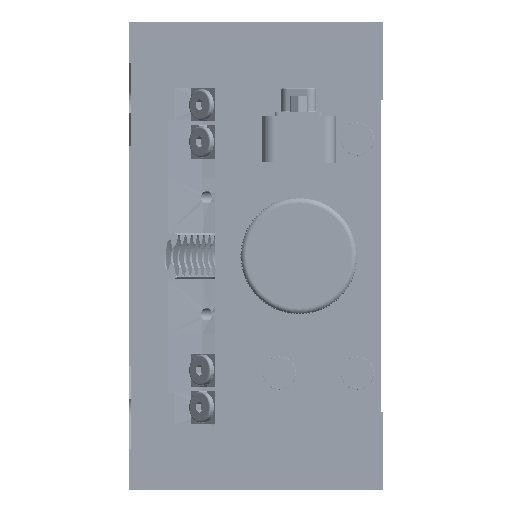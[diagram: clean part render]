
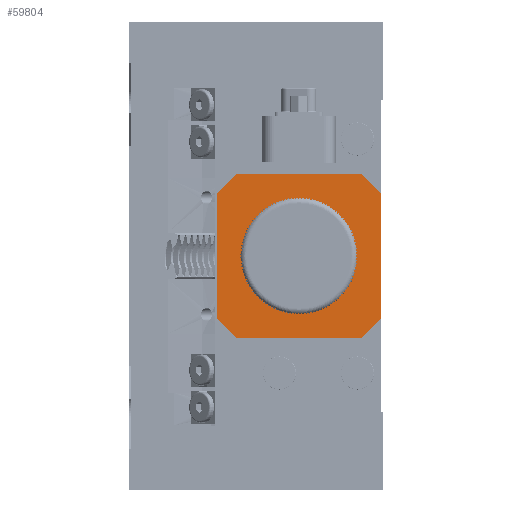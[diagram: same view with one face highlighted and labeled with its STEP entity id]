
A CAD part, left-side view. The second image highlights one B-rep face of the part: STEP entity #59804.
In plain terms, the highlighted planar face has unit normal (-1, 0, 0) as drawn and (0, 0, 1) by its records, which use the part's own axes.
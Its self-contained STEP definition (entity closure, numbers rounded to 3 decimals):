
#206 = CARTESIAN_POINT ( 'NONE',  ( 21., -16., 40. ) ) ;
#3198 = CARTESIAN_POINT ( 'NONE',  ( -16., 21., 40. ) ) ;
#7118 = VERTEX_POINT ( 'NONE', #118298 ) ;
#8674 = EDGE_LOOP ( 'NONE', ( #137030, #11923, #23959, #84253 ) ) ;
#11326 = AXIS2_PLACEMENT_3D ( 'NONE', #28456, #107285, #144192 ) ;
#11923 = ORIENTED_EDGE ( 'NONE', *, *, #99482, .T. ) ;
#13264 = LINE ( 'NONE', #25856, #87758 ) ;
#14996 = EDGE_CURVE ( 'NONE', #84926, #58340, #112009, .T. ) ;
#17418 = DIRECTION ( 'NONE',  ( 0., 0., 1. ) ) ;
#19031 = ORIENTED_EDGE ( 'NONE', *, *, #59594, .T. ) ;
#21179 = EDGE_CURVE ( 'NONE', #58340, #93669, #44086, .T. ) ;
#21972 = EDGE_LOOP ( 'NONE', ( #155359, #101040, #28802, #19031, #104558, #137445, #78874, #48452 ) ) ;
#23959 = ORIENTED_EDGE ( 'NONE', *, *, #21179, .F. ) ;
#25856 = CARTESIAN_POINT ( 'NONE',  ( 16., 21., 40. ) ) ;
#26011 = CARTESIAN_POINT ( 'NONE',  ( -21., -16., 40. ) ) ;
#26442 = VECTOR ( 'NONE', #138420, 1000. ) ;
#26480 = EDGE_CURVE ( 'NONE', #150342, #84926, #133290, .T. ) ;
#27847 = VECTOR ( 'NONE', #113949, 1000. ) ;
#28456 = CARTESIAN_POINT ( 'NONE',  ( 0., 0., 40. ) ) ;
#28802 = ORIENTED_EDGE ( 'NONE', *, *, #138723, .T. ) ;
#29284 = EDGE_CURVE ( 'NONE', #77473, #124449, #92971, .T. ) ;
#32119 = EDGE_CURVE ( 'NONE', #124449, #61895, #38666, .T. ) ;
#34602 = DIRECTION ( 'NONE',  ( 1., 0., 0. ) ) ;
#36553 = DIRECTION ( 'NONE',  ( 0., 0., 1. ) ) ;
#38666 = LINE ( 'NONE', #163619, #42638 ) ;
#39069 = CARTESIAN_POINT ( 'NONE',  ( 0., 0., 40. ) ) ;
#41026 = CARTESIAN_POINT ( 'NONE',  ( 16., 21., 40. ) ) ;
#42638 = VECTOR ( 'NONE', #151063, 1000. ) ;
#44086 = CIRCLE ( 'NONE', #102986, 2.5 ) ;
#48452 = ORIENTED_EDGE ( 'NONE', *, *, #63038, .T. ) ;
#48808 = LINE ( 'NONE', #99972, #156774 ) ;
#50496 = VECTOR ( 'NONE', #58321, 1000. ) ;
#51255 = VECTOR ( 'NONE', #77382, 1000. ) ;
#56115 = FACE_BOUND ( 'NONE', #8674, .T. ) ;
#58321 = DIRECTION ( 'NONE',  ( 1., 0., 0. ) ) ;
#58340 = VERTEX_POINT ( 'NONE', #94050 ) ;
#59594 = EDGE_CURVE ( 'NONE', #112899, #136715, #90572, .T. ) ;
#59778 = CARTESIAN_POINT ( 'NONE',  ( -16., 21., 40. ) ) ;
#59804 = ADVANCED_FACE ( 'NONE', ( #56115, #93039 ), #93880, .T. ) ;
#60094 = DIRECTION ( 'NONE',  ( 1., 0., 0. ) ) ;
#61895 = VERTEX_POINT ( 'NONE', #26011 ) ;
#62099 = CARTESIAN_POINT ( 'NONE',  ( 21., 16., 40. ) ) ;
#63038 = EDGE_CURVE ( 'NONE', #61895, #87130, #64443, .T. ) ;
#63396 = CARTESIAN_POINT ( 'NONE',  ( 0., 0., 40. ) ) ;
#64443 = LINE ( 'NONE', #153297, #27847 ) ;
#68628 = DIRECTION ( 'NONE',  ( -0.707, -0.707, 0. ) ) ;
#69453 = DIRECTION ( 'NONE',  ( 1., 0., 0. ) ) ;
#70901 = LINE ( 'NONE', #122082, #50496 ) ;
#72884 = CARTESIAN_POINT ( 'NONE',  ( -1.491, 2.007, 40. ) ) ;
#74327 = DIRECTION ( 'NONE',  ( 1., 0., 0. ) ) ;
#75370 = DIRECTION ( 'NONE',  ( -1., 0., 0. ) ) ;
#77382 = DIRECTION ( 'NONE',  ( 0., 1., 0. ) ) ;
#77473 = VERTEX_POINT ( 'NONE', #59778 ) ;
#78524 = CARTESIAN_POINT ( 'NONE',  ( -2.5, 0., 40. ) ) ;
#78874 = ORIENTED_EDGE ( 'NONE', *, *, #32119, .T. ) ;
#81207 = CARTESIAN_POINT ( 'NONE',  ( 0., 0., 40. ) ) ;
#84253 = ORIENTED_EDGE ( 'NONE', *, *, #14996, .F. ) ;
#84926 = VERTEX_POINT ( 'NONE', #78524 ) ;
#87130 = VERTEX_POINT ( 'NONE', #164643 ) ;
#87758 = VECTOR ( 'NONE', #75370, 1000. ) ;
#88809 = VERTEX_POINT ( 'NONE', #91178 ) ;
#90572 = LINE ( 'NONE', #62099, #158585 ) ;
#91178 = CARTESIAN_POINT ( 'NONE',  ( 21., -16., 40. ) ) ;
#92971 = LINE ( 'NONE', #3198, #159924 ) ;
#93039 = FACE_OUTER_BOUND ( 'NONE', #21972, .T. ) ;
#93669 = VERTEX_POINT ( 'NONE', #97008 ) ;
#93880 = PLANE ( 'NONE',  #11326 ) ;
#94050 = CARTESIAN_POINT ( 'NONE',  ( 2.5, 0., 40. ) ) ;
#97008 = CARTESIAN_POINT ( 'NONE',  ( 1.491, 2.007, 40. ) ) ;
#99482 = EDGE_CURVE ( 'NONE', #150342, #93669, #48808, .T. ) ;
#99854 = LINE ( 'NONE', #150984, #26442 ) ;
#99972 = CARTESIAN_POINT ( 'NONE',  ( -2.892, 2.007, 40. ) ) ;
#101040 = ORIENTED_EDGE ( 'NONE', *, *, #113905, .T. ) ;
#102744 = CARTESIAN_POINT ( 'NONE',  ( -21., 16., 40. ) ) ;
#102986 = AXIS2_PLACEMENT_3D ( 'NONE', #39069, #164827, #74327 ) ;
#104558 = ORIENTED_EDGE ( 'NONE', *, *, #133741, .T. ) ;
#105060 = EDGE_CURVE ( 'NONE', #87130, #7118, #70901, .T. ) ;
#107285 = DIRECTION ( 'NONE',  ( 0., 0., 1. ) ) ;
#111870 = AXIS2_PLACEMENT_3D ( 'NONE', #81207, #17418, #69453 ) ;
#112009 = CIRCLE ( 'NONE', #133448, 2.5 ) ;
#112899 = VERTEX_POINT ( 'NONE', #115915 ) ;
#113250 = DIRECTION ( 'NONE',  ( -0.707, 0.707, 0. ) ) ;
#113905 = EDGE_CURVE ( 'NONE', #7118, #88809, #99854, .T. ) ;
#113949 = DIRECTION ( 'NONE',  ( 0.707, -0.707, 0. ) ) ;
#115915 = CARTESIAN_POINT ( 'NONE',  ( 21., 16., 40. ) ) ;
#118298 = CARTESIAN_POINT ( 'NONE',  ( 16., -21., 40. ) ) ;
#122082 = CARTESIAN_POINT ( 'NONE',  ( -16., -21., 40. ) ) ;
#124449 = VERTEX_POINT ( 'NONE', #102744 ) ;
#133290 = CIRCLE ( 'NONE', #111870, 2.5 ) ;
#133448 = AXIS2_PLACEMENT_3D ( 'NONE', #63396, #36553, #60094 ) ;
#133741 = EDGE_CURVE ( 'NONE', #136715, #77473, #13264, .T. ) ;
#136715 = VERTEX_POINT ( 'NONE', #41026 ) ;
#137030 = ORIENTED_EDGE ( 'NONE', *, *, #26480, .F. ) ;
#137445 = ORIENTED_EDGE ( 'NONE', *, *, #29284, .T. ) ;
#138420 = DIRECTION ( 'NONE',  ( 0.707, 0.707, 0. ) ) ;
#138723 = EDGE_CURVE ( 'NONE', #88809, #112899, #151190, .T. ) ;
#144192 = DIRECTION ( 'NONE',  ( 1., 0., 0. ) ) ;
#150342 = VERTEX_POINT ( 'NONE', #72884 ) ;
#150984 = CARTESIAN_POINT ( 'NONE',  ( 16., -21., 40. ) ) ;
#151063 = DIRECTION ( 'NONE',  ( 0., -1., 0. ) ) ;
#151190 = LINE ( 'NONE', #206, #51255 ) ;
#153297 = CARTESIAN_POINT ( 'NONE',  ( -21., -16., 40. ) ) ;
#155359 = ORIENTED_EDGE ( 'NONE', *, *, #105060, .T. ) ;
#156774 = VECTOR ( 'NONE', #34602, 1000. ) ;
#158585 = VECTOR ( 'NONE', #113250, 1000. ) ;
#159924 = VECTOR ( 'NONE', #68628, 1000. ) ;
#163619 = CARTESIAN_POINT ( 'NONE',  ( -21., 16., 40. ) ) ;
#164643 = CARTESIAN_POINT ( 'NONE',  ( -16., -21., 40. ) ) ;
#164827 = DIRECTION ( 'NONE',  ( 0., 0., 1. ) ) ;
